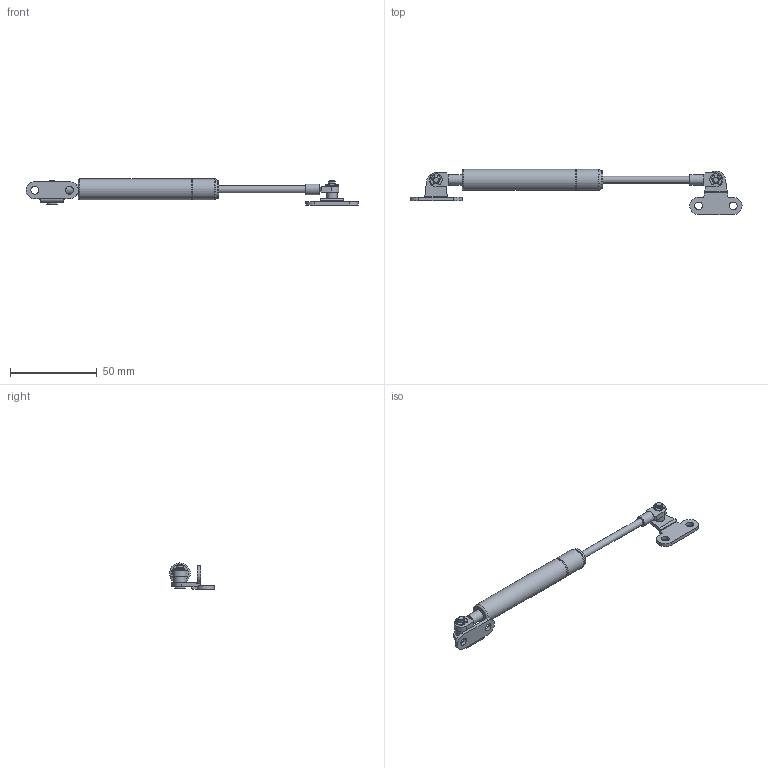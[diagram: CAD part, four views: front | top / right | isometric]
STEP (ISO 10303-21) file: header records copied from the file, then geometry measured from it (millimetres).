
FILE_DESCRIPTION(/* description */ (''),/* implementation_level */ '2;1');
FILE_NAME(/* name */ '\\NAS\db20\SB-160\DR_SB-160.stp',/* time_stamp */ '2017-09-18T13:27:11+09:00',/* author */ ('user'),/* organization */ (''),/* preprocessor_version */ 'ST-DEVELOPER v15.6',/* originating_system */ 'Autodesk Inventor 2015',/* authorisation */ '');
FILE_SCHEMA (('AUTOMOTIVE_DESIGN { 1 0 10303 214 3 1 1 }'));
Length unit declared in the file: millimetre
Products named in the file (6): DR_SB-160; DR_SB-160-BR1; DR_SB-160-BR2-1; DR_SB-160-BR2-2; DR_E링
Bounding box: 191 x 26 x 15 mm (x, y, z)
Volume: 11963.7 mm3; surface area: 8772.5 mm2
Topology: 9 solids, 9 shells, 175 faces, 401 edges, 260 vertices
Faces by surface type: plane 84, cylinder 83, torus 5, cone 3
Full cylindrical faces by diameter (mm): 3 x2, 3.5 x4, 4 x9, 4.5 x4, 5.5 x1, 6 x4, 7 x1, 8 x2, 10.5 x1, 11.5 x1, 12 x2
Entity records: 3660 total; most frequent: DIRECTION 666, CARTESIAN_POINT 596, ORIENTED_EDGE 500, AXIS2_PLACEMENT_3D 274, EDGE_CURVE 250, EDGE_LOOP 194, VERTEX_POINT 184, FACE_OUTER_BOUND 131
